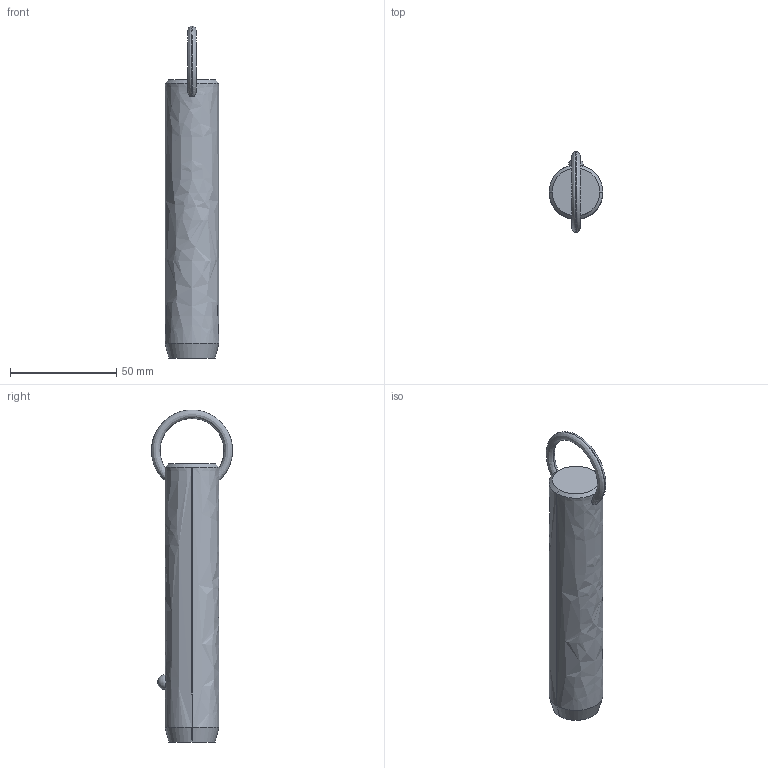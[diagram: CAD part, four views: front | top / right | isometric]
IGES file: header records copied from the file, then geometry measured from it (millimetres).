
Start section: SolidWorks IGES file using analytic representation for surfaces
Global section: file name: C:\Users\liam_\OneDrive\Documents\WORK\Work for WixRoyd\Job Files\J-00019 - Matt Davis CAD Checking\04. CAD Drawings\automotion20190605\P1250.2_v2\P1250.2_v2_20190729_IGES\P1250.100-340.igs; native system: SolidWorks 2017; preprocessor: SolidWorks 2017; author: liam_; date: 190730.173749; units: millimetre
Bounding box: 25.4 x 38.09 x 156.2 mm (x, y, z)
Surface area: 12210.7 mm2 (no closed solid volume)
Topology: 0 solids, 0 shells, 12 faces, 298 edges, 296 vertices
Faces by surface type: revolution 8, bspline 4
